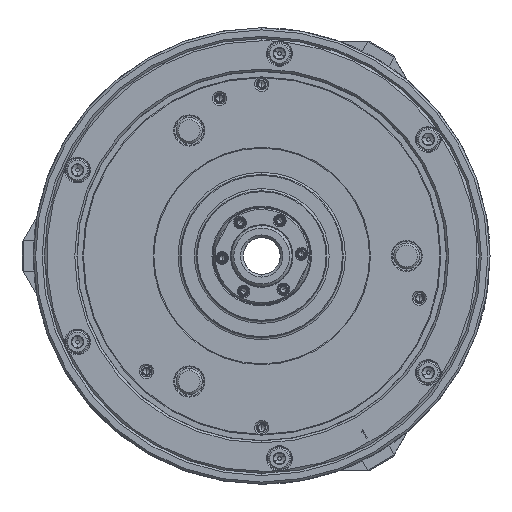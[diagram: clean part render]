
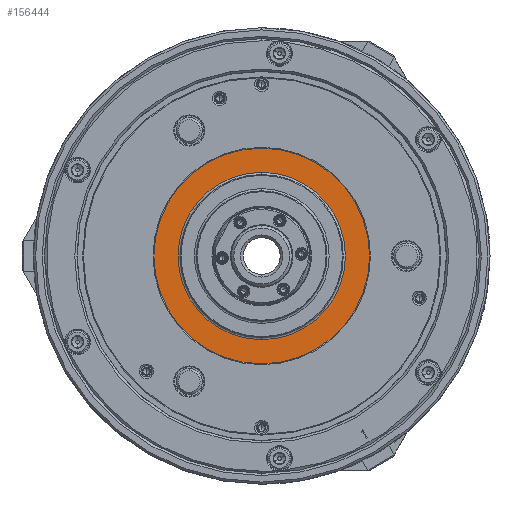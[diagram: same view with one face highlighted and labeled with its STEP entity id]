
A CAD part, left-side view. The second image highlights one B-rep face of the part: STEP entity #156444.
In plain terms, the highlighted planar face has unit normal (-1, 0, 0) as drawn and (0, 0, -1) by its records, which use the part's own axes.
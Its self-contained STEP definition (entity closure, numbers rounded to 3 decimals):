
#3942 = DIRECTION ( 'NONE',  ( 0., 0., -1. ) ) ;
#9668 = DIRECTION ( 'NONE',  ( 0., 0., -1. ) ) ;
#10564 = CIRCLE ( 'NONE', #35298, 49.616 ) ;
#14258 = EDGE_CURVE ( 'NONE', #190108, #100164, #120683, .T. ) ;
#14687 = EDGE_CURVE ( 'NONE', #100164, #190108, #189195, .T. ) ;
#22499 = DIRECTION ( 'NONE',  ( 0., 0., -1. ) ) ;
#32279 = AXIS2_PLACEMENT_3D ( 'NONE', #85071, #3942, #103899 ) ;
#35298 = AXIS2_PLACEMENT_3D ( 'NONE', #130669, #9668, #215097 ) ;
#38163 = VERTEX_POINT ( 'NONE', #167382 ) ;
#41062 = EDGE_CURVE ( 'NONE', #47434, #38163, #52763, .T. ) ;
#41902 = CARTESIAN_POINT ( 'NONE',  ( -38.5, 0., -104.8 ) ) ;
#46295 = DIRECTION ( 'NONE',  ( 0., 0., -1. ) ) ;
#47434 = VERTEX_POINT ( 'NONE', #56584 ) ;
#47973 = EDGE_CURVE ( 'NONE', #38163, #47434, #10564, .T. ) ;
#52763 = CIRCLE ( 'NONE', #63386, 49.616 ) ;
#54379 = AXIS2_PLACEMENT_3D ( 'NONE', #62153, #22499, #129893 ) ;
#56584 = CARTESIAN_POINT ( 'NONE',  ( 49.616, 0., -104.8 ) ) ;
#62153 = CARTESIAN_POINT ( 'NONE',  ( 0., 0., -104.8 ) ) ;
#63386 = AXIS2_PLACEMENT_3D ( 'NONE', #198476, #46295, #114015 ) ;
#77093 = DIRECTION ( 'NONE',  ( 0., 0., 1. ) ) ;
#77656 = CARTESIAN_POINT ( 'NONE',  ( 38.5, 0., -104.8 ) ) ;
#80375 = DIRECTION ( 'NONE',  ( 1., 0., 0. ) ) ;
#85071 = CARTESIAN_POINT ( 'NONE',  ( 0., 0., -104.8 ) ) ;
#98480 = ORIENTED_EDGE ( 'NONE', *, *, #14258, .F. ) ;
#100164 = VERTEX_POINT ( 'NONE', #77656 ) ;
#103899 = DIRECTION ( 'NONE',  ( -1., 0., 0. ) ) ;
#106645 = ORIENTED_EDGE ( 'NONE', *, *, #14687, .F. ) ;
#109285 = ORIENTED_EDGE ( 'NONE', *, *, #41062, .T. ) ;
#113720 = FACE_OUTER_BOUND ( 'NONE', #212894, .T. ) ;
#114015 = DIRECTION ( 'NONE',  ( -1., 0., 0. ) ) ;
#120683 = CIRCLE ( 'NONE', #32279, 38.5 ) ;
#129893 = DIRECTION ( 'NONE',  ( -1., 0., 0. ) ) ;
#130401 = FACE_BOUND ( 'NONE', #208938, .T. ) ;
#130669 = CARTESIAN_POINT ( 'NONE',  ( 0., 0., -104.8 ) ) ;
#156444 = ADVANCED_FACE ( 'NONE', ( #130401, #113720 ), #180404, .F. ) ;
#167382 = CARTESIAN_POINT ( 'NONE',  ( -49.616, 0., -104.8 ) ) ;
#180404 = PLANE ( 'NONE',  #195609 ) ;
#189195 = CIRCLE ( 'NONE', #54379, 38.5 ) ;
#190108 = VERTEX_POINT ( 'NONE', #41902 ) ;
#195609 = AXIS2_PLACEMENT_3D ( 'NONE', #214825, #77093, #80375 ) ;
#198476 = CARTESIAN_POINT ( 'NONE',  ( 0., 0., -104.8 ) ) ;
#205785 = ORIENTED_EDGE ( 'NONE', *, *, #47973, .T. ) ;
#208938 = EDGE_LOOP ( 'NONE', ( #98480, #106645 ) ) ;
#212894 = EDGE_LOOP ( 'NONE', ( #205785, #109285 ) ) ;
#214825 = CARTESIAN_POINT ( 'NONE',  ( 0., 0., -104.8 ) ) ;
#215097 = DIRECTION ( 'NONE',  ( -1., 0., 0. ) ) ;
